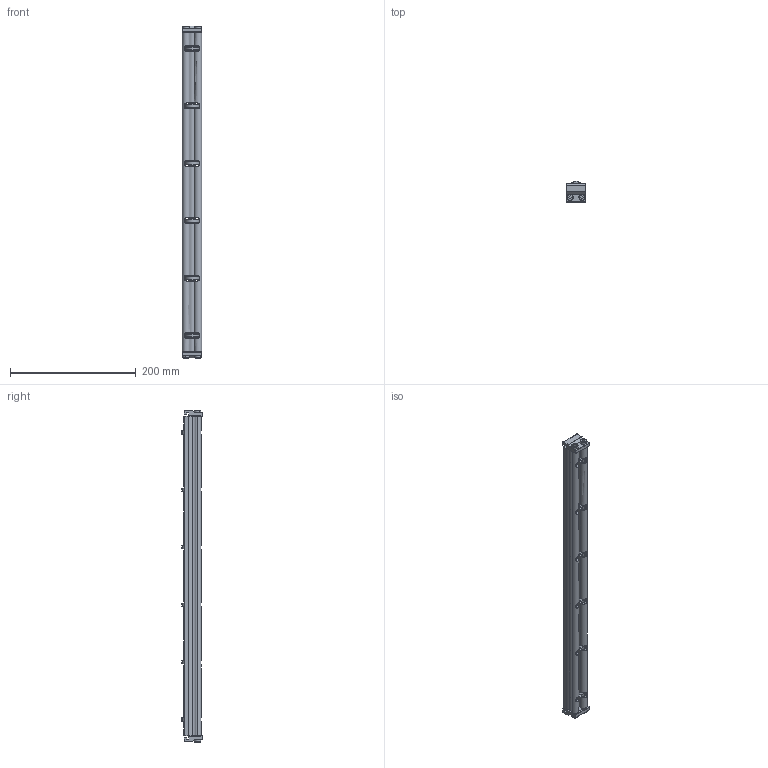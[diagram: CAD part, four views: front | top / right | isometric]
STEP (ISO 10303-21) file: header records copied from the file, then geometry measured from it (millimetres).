
FILE_DESCRIPTION((''),'2;1');
FILE_NAME('206523-20_ASM','2023-02-27T',('jenni.wallner'),(''),'PRO/ENGINEER BY PARAMETRIC TECHNOLOGY CORPORATION, 2012420','PRO/ENGINEER BY PARAMETRIC TECHNOLOGY CORPORATION, 2012420','');
FILE_SCHEMA(('CONFIG_CONTROL_DESIGN'));
Length unit declared in the file: inch
Products named in the file (7): 9506XXM_950616M; 240826; 2410WW_241020; 205977_205978_205979_205978; 2436WW_243620; ASM0001_ASM; 206523-20_ASM
Assembly tree (15 placements, depth 3):
  206523-20_ASM
    ASM0001_ASM
      9506XXM_950616M  x4
      240826  x6
      2410WW_241020
      205977_205978_205979_205978  x2
      2436WW_243620
Bounding box: 30.89 x 33.01 x 528.55 mm (x, y, z)
Volume: 254753.5 mm3; surface area: 151704.4 mm2
Topology: 14 solids, 14 shells, 464 faces, 1282 edges, 842 vertices
Faces by surface type: cylinder 206, plane 166, cone 68, torus 24
Entity records: 10913 total; most frequent: CARTESIAN_POINT 2738, ORIENTED_EDGE 1746, DIRECTION 1699, EDGE_CURVE 873, AXIS2_PLACEMENT_3D 641, VERTEX_POINT 580, VECTOR 417, LINE 417
